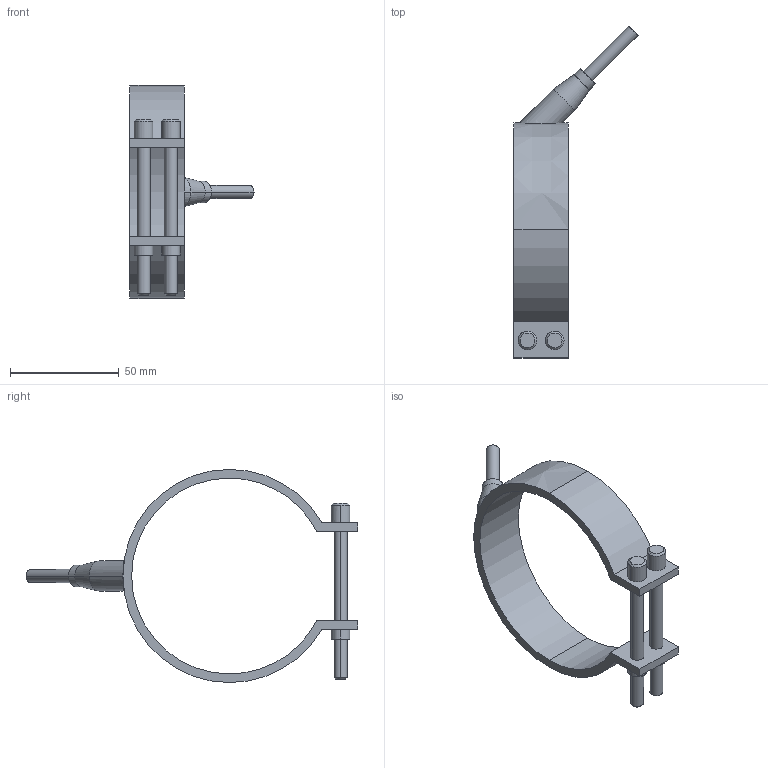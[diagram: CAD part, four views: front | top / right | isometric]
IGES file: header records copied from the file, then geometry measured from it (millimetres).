
Start section: START RECORD GO HERE.
Global section: file name: 29090025.igs; native system: DASSAULT SYSTEMES CATIA V5 R20 - www.3ds.com; preprocessor: CATIA Version 5 Release 20 ; author: Utente; organization: NB04-ASUS; date: 20210329.200137; units: millimetre
Bounding box: 57.05 x 152.55 x 98 mm (x, y, z)
Surface area: 21123.8 mm2 (no closed solid volume)
Topology: 0 solids, 0 shells, 54 faces, 246 edges, 246 vertices
Faces by surface type: revolution 38, plane 16
